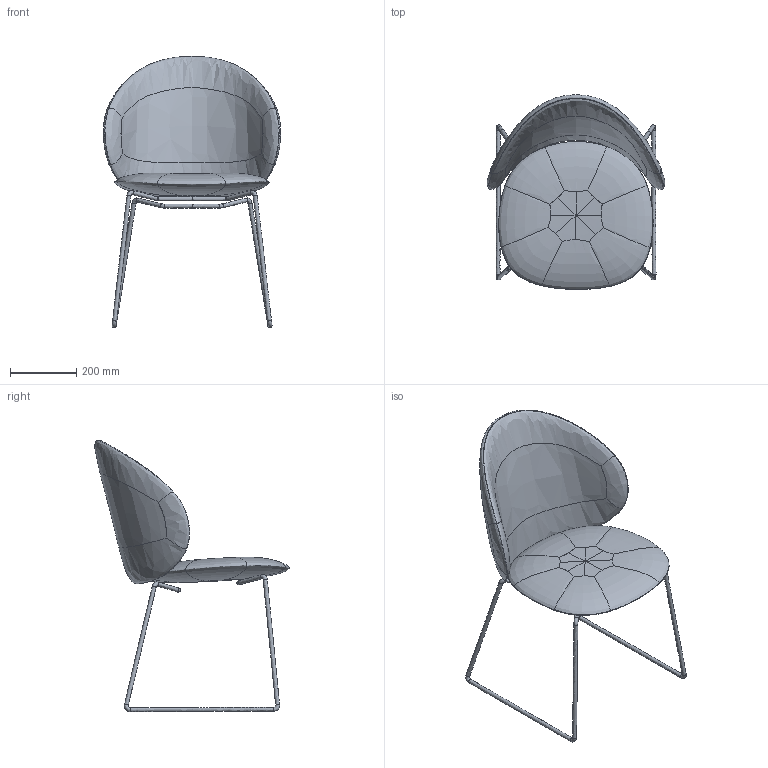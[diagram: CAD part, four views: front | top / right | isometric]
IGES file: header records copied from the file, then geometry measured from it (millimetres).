
Start section:  Autodesk Maya version 2019 IGES version 5.3  Autodesk Maya version 2019 IGES version 5.3
Global section: file name: C:\Users\Workstation2\Desktop\CHAIR_SLED.igs; native system: Rhinoceros ( Mar 28 2013 ); preprocessor: Trout Lake IGES 012 Mar 28 2013; date: 200225.104425; units: millimetre
Bounding box: 533.04 x 585.56 x 816.28 mm (x, y, z)
Surface area: 1016754.1 mm2 (no closed solid volume)
Topology: 0 solids, 0 shells, 56 faces, 198 edges, 172 vertices
Faces by surface type: bspline 56
